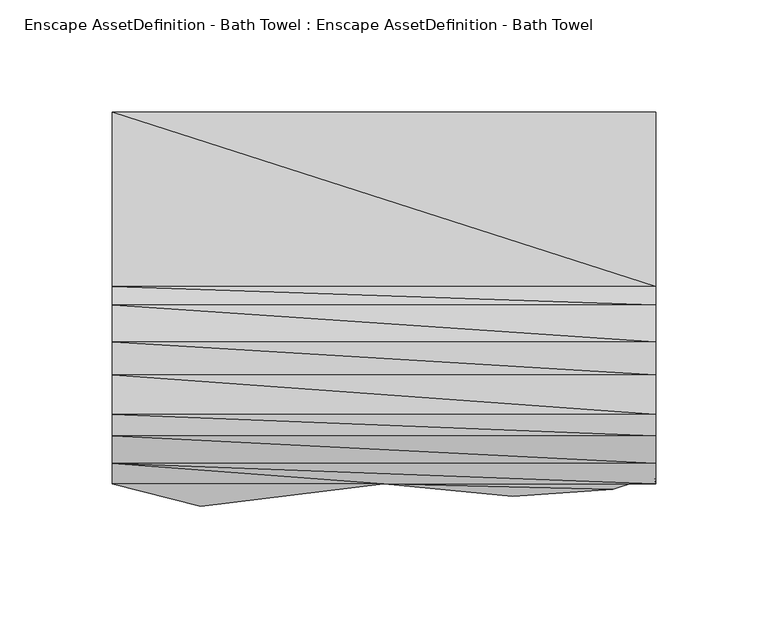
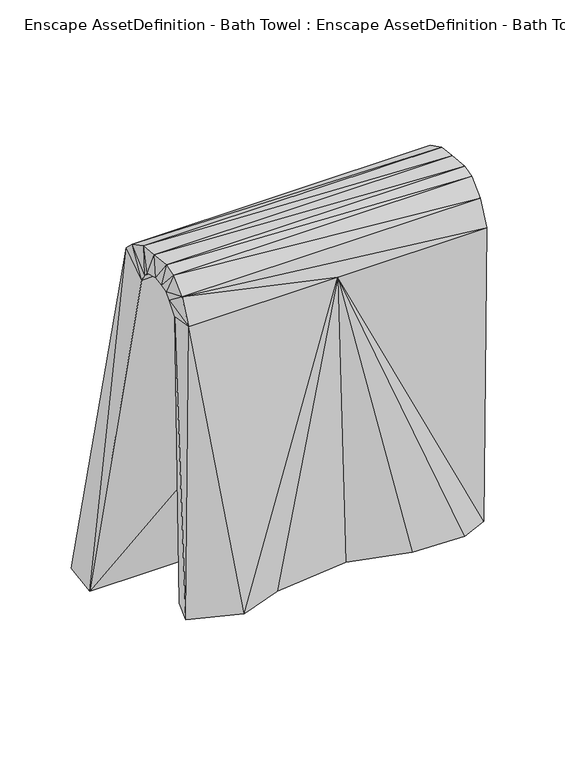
"""IFC4 building model written with IfcOpenShell, lengths in millimetres: geographic element geometry, Enscape AssetDefinition - Bath Towel : Enscape AssetDefinition - Bath Towel."""

from ifc_helpers import new_model, si_unit, origin, place, context, project, spatial, faceted_brep, source, transform, mapped, element, save


def enscape_assetdefinition_bath_towel_enscape_assetdefinition_b76da393(model_context):
    return source(origin(), model_context, "Body", "Brep", [
        faceted_brep([(-101.0437384, -46.4023687, -10.607712), (-182.6608181, -56.4341508, -264.8818493), (-151.276648, -48.1381603, -261.6802454), (-222.1490294, -46.4023687, -10.607712), (-222.1490294, -42.4648486, -264.8818493), (-181.6419661, -35.6766693, -264.5508945), (-216.2807435, -22.6832461, -264.6248937), (-92.2128037, -42.4648486, -260.9793246), (-154.6382308, -27.6806392, -261.1263096), (-101.1817157, -26.0238405, -14.3922521), (-221.8380719, -26.0708351, -14.5892287), (-222.1490294, -19.1886704, -4.3594707), (20.0615656, -25.9748474, -14.1642801), (20.0615656, -19.1886704, -4.3594707), (-222.1490294, -14.6192256, 0.1409829), (-222.1490294, -37.3384692, 9.5528401), (20.0615656, -14.6192256, 0.1409829), (20.0615656, -37.3384692, 9.5528401), (20.0615656, -25.1219515, 20.8034758), (16.1170438, -22.1983045, -266.495645), (20.0615656, -46.4023687, -10.607712), (-222.1490294, -25.1219515, 20.8034758), (-222.1490294, -15.4241268, 23.7441193), (20.0615656, -15.4241268, 23.7441193), (-222.1490294, -8.6719468, 2.2697244), (-222.1490294, 2.1247421, 21.8283497), (-222.1490294, 0.4029511, 2.9026477), (20.0615656, 2.1247421, 21.8283497), (20.0615656, -8.6719468, 2.2697244), (-222.1490294, 16.9659406, 20.5295086), (-222.1490294, 12.0545365, -0.16498), (20.0615656, 0.4029511, 2.9026477), (20.0615656, 16.9659406, 20.5295086), (-222.1490294, 33.3869457, 12.0155411), (-222.1490294, 15.5851087, -3.9615193), (20.0615656, 12.0545365, -0.16498), (20.0615656, 33.3869457, 12.0155411), (-222.1490294, 41.6469462, 3.8205362), (-222.1490294, 19.5276309, -10.8476831), (20.0615656, 15.5851087, -3.9615193), (20.0615656, 41.6469462, 3.8205362), (-222.1490294, 119.3645075, -318.6523318), (-222.1490294, 93.2516754, -322.7747977), (20.0615656, 19.5276309, -10.8476831), (20.0615656, 119.3645075, -318.6523318), (20.0615656, 93.2516754, -322.7747977), (20.0615656, -42.4648486, -264.8818493), (0.8199005, -48.9020646, -267.4435377), (-43.6806977, -51.8387109, -263.6400163), (-2.9296444, -28.5945274, -269.0973282), (-43.0237763, -31.0612284, -263.8689876), (-91.2799165, -21.7013638, -260.6703639)], [[[0, 1, 2]], [[3, 1, 0]], [[1, 3, 4]], [[5, 2, 1]], [[1, 6, 5]], [[6, 1, 4]], [[0, 2, 7]], [[2, 5, 8]], [[8, 7, 2]], [[5, 9, 8]], [[5, 10, 9]], [[10, 5, 6]], [[4, 10, 6]], [[10, 4, 3]], [[11, 9, 10]], [[3, 11, 10]], [[12, 11, 13]], [[11, 12, 9]], [[14, 13, 11]], [[11, 3, 15]], [[15, 14, 11]], [[13, 14, 16]], [[17, 12, 13]], [[18, 13, 16]], [[13, 18, 17]], [[19, 9, 12]], [[12, 17, 20]], [[20, 19, 12]], [[15, 20, 17]], [[17, 21, 15]], [[21, 17, 18]], [[22, 18, 23]], [[18, 22, 21]], [[16, 23, 18]], [[21, 24, 14]], [[24, 21, 22]], [[14, 15, 21]], [[23, 25, 22]], [[22, 26, 24]], [[26, 22, 25]], [[25, 23, 27]], [[28, 27, 23]], [[23, 16, 28]], [[27, 29, 25]], [[25, 30, 26]], [[30, 25, 29]], [[26, 28, 24]], [[28, 26, 31]], [[30, 31, 26]], [[16, 24, 28]], [[27, 28, 31]], [[24, 16, 14]], [[29, 27, 32]], [[31, 32, 27]], [[32, 33, 29]], [[29, 34, 30]], [[34, 29, 33]], [[34, 35, 30]], [[31, 30, 35]], [[32, 31, 35]], [[33, 32, 36]], [[35, 36, 32]], [[36, 37, 33]], [[33, 38, 34]], [[38, 33, 37]], [[35, 34, 39]], [[38, 39, 34]], [[36, 35, 39]], [[37, 36, 40]], [[39, 40, 36]], [[40, 41, 37]], [[37, 42, 38]], [[42, 37, 41]], [[42, 43, 38]], [[39, 38, 43]], [[40, 39, 43]], [[41, 40, 44]], [[43, 44, 40]], [[41, 45, 42]], [[45, 41, 44]], [[43, 42, 45]], [[44, 43, 45]], [[20, 15, 0]], [[0, 15, 3]], [[0, 46, 20]], [[46, 0, 47]], [[0, 7, 48]], [[48, 47, 0]], [[19, 20, 46]], [[46, 49, 19]], [[49, 46, 47]], [[47, 50, 49]], [[50, 47, 48]], [[48, 51, 50]], [[51, 48, 7]], [[7, 8, 51]], [[51, 9, 50]], [[8, 9, 51]], [[49, 50, 9]], [[9, 19, 49]]]),
    ])


if __name__ == "__main__":
    model = new_model("IFC4")
    model_context = context("Model", 3, world=origin())
    ifc_project = project(units=[si_unit("LENGTHUNIT", "METRE", prefix="MILLI")], contexts=[model_context])
    site = spatial("IfcSite", under=ifc_project)
    building = spatial("IfcBuilding", under=site)
    placement = place(None, origin())
    enscape_assetdefinition_bath_towel_enscape_assetdefinition_shape = enscape_assetdefinition_bath_towel_enscape_assetdefinition_b76da393(model_context)
    element("IfcGeographicElement", 1, ObjectType="Enscape AssetDefinition - Bath Towel : Enscape AssetDefinition - Bath Towel", at=placement, inside=building, context=model_context, shape_type="MappedRepresentation", body=[
        mapped(enscape_assetdefinition_bath_towel_enscape_assetdefinition_shape, transform((0.0, 0.0, 0.0), x_axis=(1.0, 0.0, 0.0), y_axis=(0.0, 1.0, 0.0), z_axis=(0.0, 0.0, 1.0))),
    ])
    save(model, "model.ifc")
